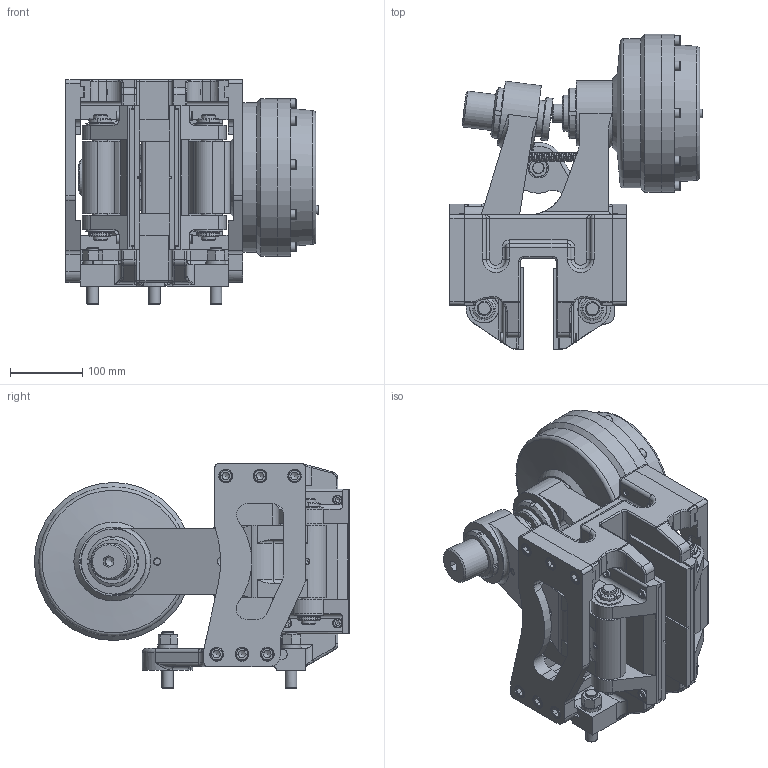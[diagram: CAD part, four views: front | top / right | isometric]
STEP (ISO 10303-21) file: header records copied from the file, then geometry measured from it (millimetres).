
FILE_DESCRIPTION(/* description */ ('','CAx-IF Rec.Pracs.---Representation and Presentation of Product Manufacturing Information (PMI)---4.0---2014-10-13'),/* implementation_level */ '2;1');
FILE_NAME(/* name */ 'X:\INVENTOR\DISEGNI\19_Pinze\STEP x Sito\PNEUM-NEGATIVE\19_36_064_06 PPT-N064_40.stp',/* time_stamp */ '2018-10-25T16:19:33+02:00',/* author */ ('stefano'),/* organization */ (''),/* preprocessor_version */ 'ST-DEVELOPER v17',/* originating_system */ 'Autodesk Inventor 2018',/* authorisation */ '');
FILE_SCHEMA (('AP242_MANAGED_MODEL_BASED_3D_ENGINEERING_MIM_LF { 1 0 10303 442 1 1 4 }'));
Length unit declared in the file: millimetre
Products named in the file (1): 19_36_064_06 PPT-N064_40_Substitute_2
Bounding box: 348.1 x 435 x 310 mm (x, y, z)
Volume: 9906480.7 mm3; surface area: 1207849.7 mm2
Topology: 1 solids, 1 shells, 1753 faces, 4789 edges, 3111 vertices
Faces by surface type: plane 851, cylinder 500, cone 178, torus 173, bspline 31, sphere 20
Full cylindrical faces by diameter (mm): 1.8 x2, 2.5 x1, 4.917 x6, 5 x1, 6.3 x6, 6.917 x1, 7.4 x1, 7.5 x2, 8 x8, 8.376 x1, 8.5 x8, 8.917 x2, 9 x1, 9.188 x1, 10 x3, 10.106 x9, 10.5 x5, 10.647 x2, 11.445 x1, 12 x13, 12.5 x12, 13 x17, 13.5 x8, 14 x1, 16 x6, 16.5 x5, 17 x3, 18 x13, 18.631 x1, 19 x12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
Entity records: 65123 total; most frequent: CARTESIAN_POINT 18868, DIRECTION 9532, ORIENTED_EDGE 9434, EDGE_CURVE 4717, AXIS2_PLACEMENT_3D 3668, VERTEX_POINT 3111, LINE 2196, VECTOR 2196
